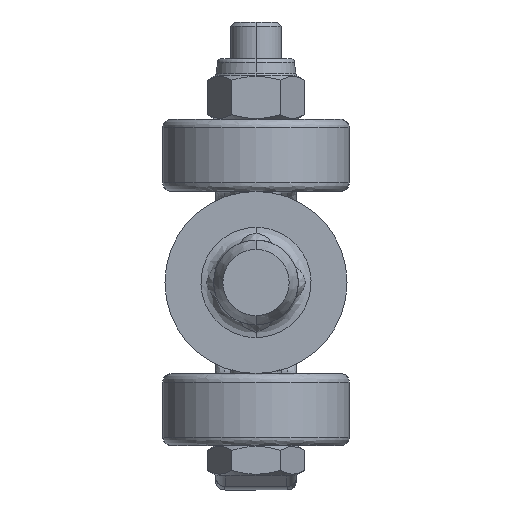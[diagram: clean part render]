
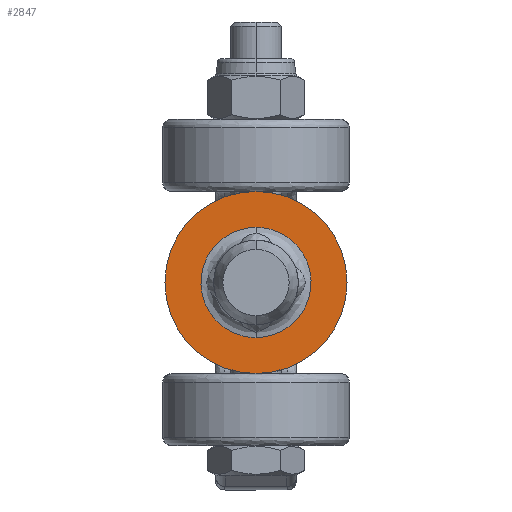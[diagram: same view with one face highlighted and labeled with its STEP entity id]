
A CAD part, front view. The second image highlights one B-rep face of the part: STEP entity #2847.
In plain terms, the highlighted planar face has unit normal (0, -1, 0) as drawn and (-1, 0, 0) by its records, which use the part's own axes.
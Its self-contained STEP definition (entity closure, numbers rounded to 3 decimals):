
#202 = AXIS2_PLACEMENT_3D ( 'NONE', #1924, #2018, #6675 ) ;
#545 = CARTESIAN_POINT ( 'NONE',  ( 0., 0., 0. ) ) ;
#615 = CARTESIAN_POINT ( 'NONE',  ( 0., 0., -10.75 ) ) ;
#695 = EDGE_LOOP ( 'NONE', ( #9462, #935 ) ) ;
#809 = CARTESIAN_POINT ( 'NONE',  ( 0., -13., 6.5 ) ) ;
#825 = VERTEX_POINT ( 'NONE', #615 ) ;
#935 = ORIENTED_EDGE ( 'NONE', *, *, #8089, .F. ) ;
#985 = ORIENTED_EDGE ( 'NONE', *, *, #5997, .F. ) ;
#1466 = CARTESIAN_POINT ( 'NONE',  ( 0., 0., -6.5 ) ) ;
#1924 = CARTESIAN_POINT ( 'NONE',  ( 0., 0., 0. ) ) ;
#1951 = DIRECTION ( 'NONE',  ( 1., 0., 0. ) ) ;
#2018 = DIRECTION ( 'NONE',  ( 1., 0., 0. ) ) ;
#2093 = AXIS2_PLACEMENT_3D ( 'NONE', #545, #8783, #6599 ) ;
#2593 = CIRCLE ( 'NONE', #202, 10.75 ) ;
#2693 = FACE_BOUND ( 'NONE', #9005, .T. ) ;
#2847 = ADVANCED_FACE ( 'NONE', ( #2693, #8086 ), #4916, .F. ) ;
#3167 = CARTESIAN_POINT ( 'NONE',  ( 0., 0., 6.5 ) ) ;
#3476 = CARTESIAN_POINT ( 'NONE',  ( 0., 0., 10.75 ) ) ;
#3704 = EDGE_CURVE ( 'NONE', #8445, #825, #2593, .T. ) ;
#4521 = VERTEX_POINT ( 'NONE', #7577 ) ;
#4724 = CARTESIAN_POINT ( 'NONE',  ( 0., 13., 6.5 ) ) ;
#4916 = PLANE ( 'NONE',  #6837 ) ;
#5154 = ORIENTED_EDGE ( 'NONE', *, *, #6681, .F. ) ;
#5384 = CARTESIAN_POINT ( 'NONE',  ( 0., 13., -6.5 ) ) ;
#5459 =( BOUNDED_CURVE ( )  B_SPLINE_CURVE ( 3, ( #7603, #6019, #809, #9254 ),
 .UNSPECIFIED., .F., .F. ) 
 B_SPLINE_CURVE_WITH_KNOTS ( ( 4, 4 ),
 ( 0., 0.5 ),
 .UNSPECIFIED. ) 
 CURVE ( )  GEOMETRIC_REPRESENTATION_ITEM ( )  RATIONAL_B_SPLINE_CURVE ( ( 1., 0.333, 0.333, 1. ) ) 
 REPRESENTATION_ITEM ( '' )  );
#5477 = CIRCLE ( 'NONE', #2093, 10.75 ) ;
#5997 = EDGE_CURVE ( 'NONE', #8533, #4521, #5459, .T. ) ;
#6019 = CARTESIAN_POINT ( 'NONE',  ( 0., -13., -6.5 ) ) ;
#6516 =( BOUNDED_CURVE ( )  B_SPLINE_CURVE ( 3, ( #3167, #4724, #5384, #8458 ),
 .UNSPECIFIED., .F., .F. ) 
 B_SPLINE_CURVE_WITH_KNOTS ( ( 4, 4 ),
 ( 0.5, 1. ),
 .UNSPECIFIED. ) 
 CURVE ( )  GEOMETRIC_REPRESENTATION_ITEM ( )  RATIONAL_B_SPLINE_CURVE ( ( 1., 0.333, 0.333, 1. ) ) 
 REPRESENTATION_ITEM ( '' )  );
#6599 = DIRECTION ( 'NONE',  ( 0., 0., 1. ) ) ;
#6602 = CARTESIAN_POINT ( 'NONE',  ( 0., 6.5, 0. ) ) ;
#6675 = DIRECTION ( 'NONE',  ( 0., 0., 1. ) ) ;
#6681 = EDGE_CURVE ( 'NONE', #4521, #8533, #6516, .T. ) ;
#6837 = AXIS2_PLACEMENT_3D ( 'NONE', #6602, #1951, #7943 ) ;
#7577 = CARTESIAN_POINT ( 'NONE',  ( 0., 0., 6.5 ) ) ;
#7603 = CARTESIAN_POINT ( 'NONE',  ( 0., 0., -6.5 ) ) ;
#7943 = DIRECTION ( 'NONE',  ( 0., 0., -1. ) ) ;
#8086 = FACE_OUTER_BOUND ( 'NONE', #695, .T. ) ;
#8089 = EDGE_CURVE ( 'NONE', #825, #8445, #5477, .T. ) ;
#8445 = VERTEX_POINT ( 'NONE', #3476 ) ;
#8458 = CARTESIAN_POINT ( 'NONE',  ( 0., 0., -6.5 ) ) ;
#8533 = VERTEX_POINT ( 'NONE', #1466 ) ;
#8783 = DIRECTION ( 'NONE',  ( 1., 0., 0. ) ) ;
#9005 = EDGE_LOOP ( 'NONE', ( #985, #5154 ) ) ;
#9254 = CARTESIAN_POINT ( 'NONE',  ( 0., 0., 6.5 ) ) ;
#9462 = ORIENTED_EDGE ( 'NONE', *, *, #3704, .F. ) ;
